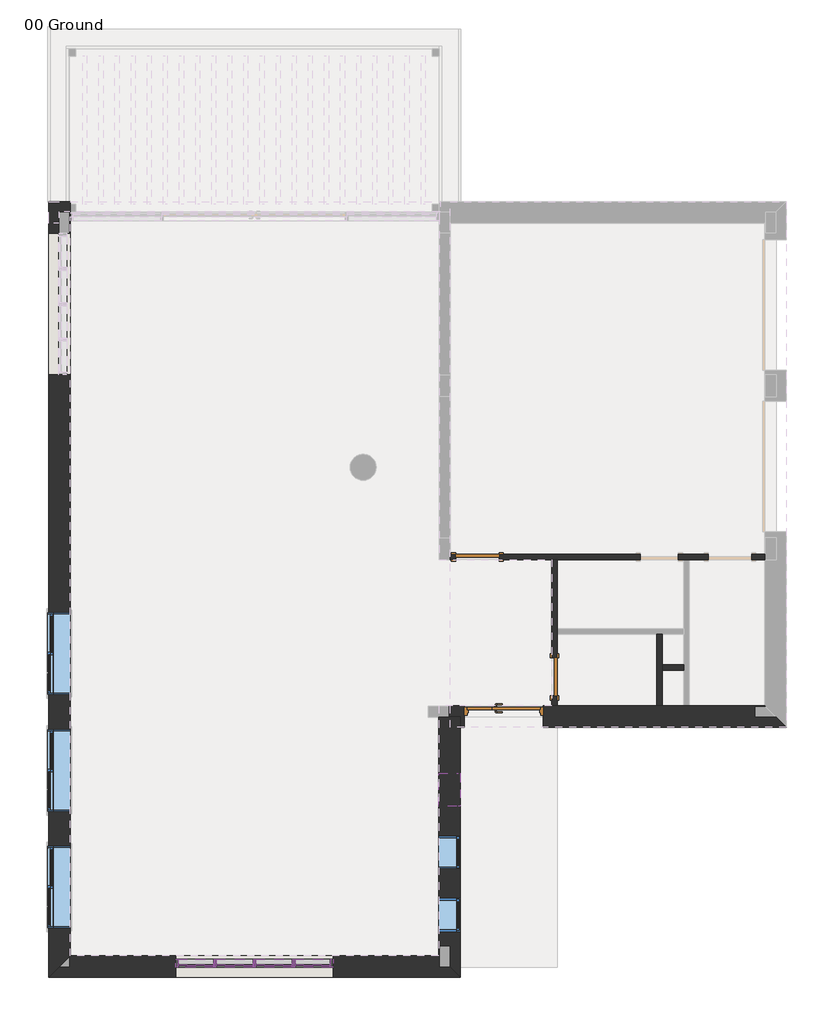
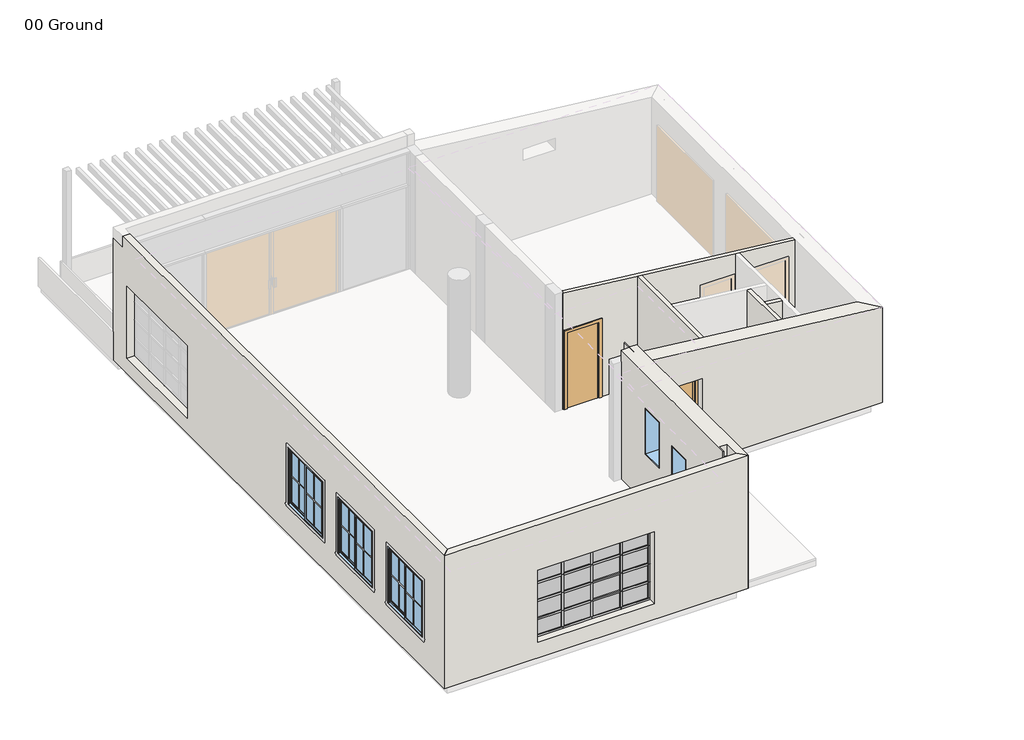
# One storey, part 1 of 3: 40 members, 16 plates, 8 walls, 6 windows, 3 doors.
"""IFC4 building model written with IfcOpenShell, lengths in millimetres."""

from ifc_helpers import new_model, si_unit, frame, origin, place, context, project, spatial, polyline, outline, extrude, faceted_brep, transform, mapped, element, save
from components import m_door_passage_uneven_flush_1350_x_2100mm_8cd78c95, m_single_flush_0700_x_2100mm_23326b45, m_single_flush_0800_x_2100mm_e1c1bfab, rectangular_mullion_50_x_150mm_fef40266, rectangular_mullion_50_x_150mm_4130c5bf, rectangular_mullion_50_x_150mm_a9044063, rectangular_mullion_50_x_150mm_1348d4e1, rectangular_mullion_50_x_150mm_89c22e8d, rectangular_mullion_50_x_150mm_42d59fea, rectangular_mullion_50_x_150mm_129a33a7, rectangular_mullion_50_x_150mm_05a43cda, system_panel_glazed_d9146cf5, system_panel_glazed_aea024ea, system_panel_glazed_24712de8, system_panel_glazed_68d5ac44, m_fixed_0610_x_1220mm_41f4d490, m_window_sliding_double_1500_x_1500mm_8cf3a065

model = new_model("IFC4")

# Units and contexts
model_context = context("Model", 3, world=origin())
ifc_project = project(units=[si_unit("LENGTHUNIT", "METRE", prefix="MILLI")], contexts=[model_context])

# Site, building, storey
site = spatial("IfcSite", under=ifc_project)
building = spatial("IfcBuilding", under=site)
storey = spatial("IfcBuildingStorey", under=building, Name="00 Ground", Elevation=0.0)

# Doors
placement = place(None, origin())
m_door_passage_uneven_flush_1350_x_2100mm_shape = m_door_passage_uneven_flush_1350_x_2100mm_8cd78c95(model_context)
element("IfcDoor", 1, ObjectType="M_Door-Passage-Uneven-Flush : 1350 x 2100mm", at=placement, inside=storey, context=model_context, shape_type="MappedRepresentation", body=[
    mapped(m_door_passage_uneven_flush_1350_x_2100mm_shape, transform((-132.5407999, -2955.0601648, 0.0), x_axis=(-1.0, 0.0, 0.0), y_axis=(0.0, -1.0, 0.0), z_axis=(0.0, 0.0, 1.0))),
])
m_single_flush_0700_x_2100mm_shape = m_single_flush_0700_x_2100mm_23326b45(model_context)
element("IfcDoor", 2, ObjectType="M_Single-Flush : 0700 x 2100mm", at=placement, inside=storey, context=model_context, shape_type="MappedRepresentation", body=[
    mapped(m_single_flush_0700_x_2100mm_shape, transform((796.9592001, -2219.7101648, 0.0), x_axis=(0.0, -1.0, 0.0), y_axis=(1.0, 0.0, 0.0), z_axis=(0.0, 0.0, 1.0))),
])
m_single_flush_0800_x_2100mm_shape = m_single_flush_0800_x_2100mm_e1c1bfab(model_context)
element("IfcDoor", 3, ObjectType="M_Single-Flush : 0800 x 2100mm", at=placement, inside=storey, context=model_context, shape_type="MappedRepresentation", body=[
    mapped(m_single_flush_0800_x_2100mm_shape, transform((-622.5407999, -12.7101648, 0.0), x_axis=(-1.0, 0.0, 0.0), y_axis=(0.0, -1.0, 0.0), z_axis=(0.0, 0.0, 1.0))),
])

# Members
rectangular_mullion_50_x_150mm_shape = rectangular_mullion_50_x_150mm_fef40266(model_context)
element("IfcMember", 4, ObjectType="Rectangular Mullion : 50 x 150mm", at=placement, inside=storey, context=model_context, shape_type="MappedRepresentation", body=[
    mapped(rectangular_mullion_50_x_150mm_shape, transform((-3272.5407999, -7487.7101648, 2300.0), x_axis=(0.0, 0.0, 1.0), y_axis=(0.0, -1.0, 0.0), z_axis=(1.0, 0.0, 0.0))),
])
element("IfcMember", 5, ObjectType="Rectangular Mullion : 50 x 150mm", at=placement, inside=storey, context=model_context, shape_type="MappedRepresentation", body=[
    mapped(rectangular_mullion_50_x_150mm_shape, transform((-5447.5407998, -7487.7101648, 2300.0), x_axis=(0.0, 0.0, 1.0), y_axis=(0.0, -1.0, 0.0), z_axis=(1.0, 0.0, 0.0))),
])
rectangular_mullion_50_x_150mm_2_shape = rectangular_mullion_50_x_150mm_4130c5bf(model_context)
element("IfcMember", 6, ObjectType="Rectangular Mullion : 50 x 150mm", at=placement, inside=storey, context=model_context, shape_type="MappedRepresentation", body=[
    mapped(rectangular_mullion_50_x_150mm_2_shape, transform((-4722.5407999, -7487.7101648, 2300.0), x_axis=(0.0, 0.0, 1.0), y_axis=(0.0, -1.0, 0.0), z_axis=(1.0, 0.0, 0.0))),
])
element("IfcMember", 7, ObjectType="Rectangular Mullion : 50 x 150mm", at=placement, inside=storey, context=model_context, shape_type="MappedRepresentation", body=[
    mapped(rectangular_mullion_50_x_150mm_2_shape, transform((-3997.5408001, -7487.7101648, 2300.0), x_axis=(0.0, 0.0, 1.0), y_axis=(0.0, -1.0, 0.0), z_axis=(1.0, 0.0, 0.0))),
])
element("IfcMember", 8, ObjectType="Rectangular Mullion : 50 x 150mm", at=placement, inside=storey, context=model_context, shape_type="MappedRepresentation", body=[
    mapped(rectangular_mullion_50_x_150mm_shape, transform((-6172.5407999, -7487.7101648, 400.0), x_axis=(0.0, 0.0, -1.0), y_axis=(0.0, -1.0, 0.0), z_axis=(-1.0, 0.0, 0.0))),
])
element("IfcMember", 9, ObjectType="Rectangular Mullion : 50 x 150mm", at=placement, inside=storey, context=model_context, shape_type="MappedRepresentation", body=[
    mapped(rectangular_mullion_50_x_150mm_2_shape, transform((-5447.5407998, -7487.7101648, 400.0), x_axis=(0.0, 0.0, -1.0), y_axis=(0.0, -1.0, 0.0), z_axis=(-1.0, 0.0, 0.0))),
])
element("IfcMember", 10, ObjectType="Rectangular Mullion : 50 x 150mm", at=placement, inside=storey, context=model_context, shape_type="MappedRepresentation", body=[
    mapped(rectangular_mullion_50_x_150mm_2_shape, transform((-4722.5407999, -7487.7101648, 400.0), x_axis=(0.0, 0.0, -1.0), y_axis=(0.0, -1.0, 0.0), z_axis=(-1.0, 0.0, 0.0))),
])
element("IfcMember", 11, ObjectType="Rectangular Mullion : 50 x 150mm", at=placement, inside=storey, context=model_context, shape_type="MappedRepresentation", body=[
    mapped(rectangular_mullion_50_x_150mm_shape, transform((-3997.5408001, -7487.7101648, 400.0), x_axis=(0.0, 0.0, -1.0), y_axis=(0.0, -1.0, 0.0), z_axis=(-1.0, 0.0, 0.0))),
])
rectangular_mullion_50_x_150mm_3_shape = rectangular_mullion_50_x_150mm_a9044063(model_context)
element("IfcMember", 12, ObjectType="Rectangular Mullion : 50 x 150mm", at=placement, inside=storey, context=model_context, shape_type="MappedRepresentation", body=[
    mapped(rectangular_mullion_50_x_150mm_3_shape, transform((-3322.5407999, -7487.7101648, 875.0), x_axis=(0.0, 0.0, 1.0), y_axis=(0.0, -1.0, 0.0), z_axis=(1.0, 0.0, 0.0))),
])
element("IfcMember", 13, ObjectType="Rectangular Mullion : 50 x 150mm", at=placement, inside=storey, context=model_context, shape_type="MappedRepresentation", body=[
    mapped(rectangular_mullion_50_x_150mm_3_shape, transform((-3322.5407999, -7487.7101648, 1350.0), x_axis=(0.0, 0.0, 1.0), y_axis=(0.0, -1.0, 0.0), z_axis=(1.0, 0.0, 0.0))),
])
element("IfcMember", 14, ObjectType="Rectangular Mullion : 50 x 150mm", at=placement, inside=storey, context=model_context, shape_type="MappedRepresentation", body=[
    mapped(rectangular_mullion_50_x_150mm_3_shape, transform((-3322.5407999, -7487.7101648, 1825.0), x_axis=(0.0, 0.0, 1.0), y_axis=(0.0, -1.0, 0.0), z_axis=(1.0, 0.0, 0.0))),
])
element("IfcMember", 15, ObjectType="Rectangular Mullion : 50 x 150mm", at=placement, inside=storey, context=model_context, shape_type="MappedRepresentation", body=[
    mapped(rectangular_mullion_50_x_150mm_3_shape, transform((-5472.5407998, -7487.7101648, 875.0), x_axis=(0.0, 0.0, 1.0), y_axis=(0.0, -1.0, 0.0), z_axis=(1.0, 0.0, 0.0))),
])
element("IfcMember", 16, ObjectType="Rectangular Mullion : 50 x 150mm", at=placement, inside=storey, context=model_context, shape_type="MappedRepresentation", body=[
    mapped(rectangular_mullion_50_x_150mm_3_shape, transform((-5472.5407998, -7487.7101648, 1350.0), x_axis=(0.0, 0.0, 1.0), y_axis=(0.0, -1.0, 0.0), z_axis=(1.0, 0.0, 0.0))),
])
element("IfcMember", 17, ObjectType="Rectangular Mullion : 50 x 150mm", at=placement, inside=storey, context=model_context, shape_type="MappedRepresentation", body=[
    mapped(rectangular_mullion_50_x_150mm_3_shape, transform((-5472.5407998, -7487.7101648, 1825.0), x_axis=(0.0, 0.0, 1.0), y_axis=(0.0, -1.0, 0.0), z_axis=(1.0, 0.0, 0.0))),
])
rectangular_mullion_50_x_150mm_4_shape = rectangular_mullion_50_x_150mm_1348d4e1(model_context)
element("IfcMember", 18, ObjectType="Rectangular Mullion : 50 x 150mm", at=placement, inside=storey, context=model_context, shape_type="MappedRepresentation", body=[
    mapped(rectangular_mullion_50_x_150mm_4_shape, transform((-4747.5407999, -7487.7101648, 875.0), x_axis=(0.0, 0.0, 1.0), y_axis=(0.0, -1.0, 0.0), z_axis=(1.0, 0.0, 0.0))),
])
element("IfcMember", 19, ObjectType="Rectangular Mullion : 50 x 150mm", at=placement, inside=storey, context=model_context, shape_type="MappedRepresentation", body=[
    mapped(rectangular_mullion_50_x_150mm_4_shape, transform((-4022.5408001, -7487.7101648, 875.0), x_axis=(0.0, 0.0, 1.0), y_axis=(0.0, -1.0, 0.0), z_axis=(1.0, 0.0, 0.0))),
])
element("IfcMember", 20, ObjectType="Rectangular Mullion : 50 x 150mm", at=placement, inside=storey, context=model_context, shape_type="MappedRepresentation", body=[
    mapped(rectangular_mullion_50_x_150mm_4_shape, transform((-4747.5407999, -7487.7101648, 1350.0), x_axis=(0.0, 0.0, 1.0), y_axis=(0.0, -1.0, 0.0), z_axis=(1.0, 0.0, 0.0))),
])
element("IfcMember", 21, ObjectType="Rectangular Mullion : 50 x 150mm", at=placement, inside=storey, context=model_context, shape_type="MappedRepresentation", body=[
    mapped(rectangular_mullion_50_x_150mm_4_shape, transform((-4022.5408001, -7487.7101648, 1350.0), x_axis=(0.0, 0.0, 1.0), y_axis=(0.0, -1.0, 0.0), z_axis=(1.0, 0.0, 0.0))),
])
element("IfcMember", 22, ObjectType="Rectangular Mullion : 50 x 150mm", at=placement, inside=storey, context=model_context, shape_type="MappedRepresentation", body=[
    mapped(rectangular_mullion_50_x_150mm_4_shape, transform((-4747.5407999, -7487.7101648, 1825.0), x_axis=(0.0, 0.0, 1.0), y_axis=(0.0, -1.0, 0.0), z_axis=(1.0, 0.0, 0.0))),
])
element("IfcMember", 23, ObjectType="Rectangular Mullion : 50 x 150mm", at=placement, inside=storey, context=model_context, shape_type="MappedRepresentation", body=[
    mapped(rectangular_mullion_50_x_150mm_4_shape, transform((-4022.5408001, -7487.7101648, 1825.0), x_axis=(0.0, 0.0, 1.0), y_axis=(0.0, -1.0, 0.0), z_axis=(1.0, 0.0, 0.0))),
])
rectangular_mullion_50_x_150mm_5_shape = rectangular_mullion_50_x_150mm_89c22e8d(model_context)
element("IfcMember", 24, ObjectType="Rectangular Mullion : 50 x 150mm", at=placement, inside=storey, context=model_context, shape_type="MappedRepresentation", body=[
    mapped(rectangular_mullion_50_x_150mm_5_shape, transform((-3272.5407999, -7487.7101648, 450.0), x_axis=(1.0, 0.0, 0.0), y_axis=(0.0, -1.0, 0.0), z_axis=(0.0, 0.0, -1.0))),
])
rectangular_mullion_50_x_150mm_6_shape = rectangular_mullion_50_x_150mm_42d59fea(model_context)
element("IfcMember", 25, ObjectType="Rectangular Mullion : 50 x 150mm", at=placement, inside=storey, context=model_context, shape_type="MappedRepresentation", body=[
    mapped(rectangular_mullion_50_x_150mm_6_shape, transform((-3272.5407999, -7487.7101648, 875.0), x_axis=(1.0, 0.0, 0.0), y_axis=(0.0, -1.0, 0.0), z_axis=(0.0, 0.0, -1.0))),
])
element("IfcMember", 26, ObjectType="Rectangular Mullion : 50 x 150mm", at=placement, inside=storey, context=model_context, shape_type="MappedRepresentation", body=[
    mapped(rectangular_mullion_50_x_150mm_6_shape, transform((-3272.5407999, -7487.7101648, 1350.0), x_axis=(1.0, 0.0, 0.0), y_axis=(0.0, -1.0, 0.0), z_axis=(0.0, 0.0, -1.0))),
])
element("IfcMember", 27, ObjectType="Rectangular Mullion : 50 x 150mm", at=placement, inside=storey, context=model_context, shape_type="MappedRepresentation", body=[
    mapped(rectangular_mullion_50_x_150mm_5_shape, transform((-3272.5407999, -7487.7101648, 1825.0), x_axis=(1.0, 0.0, 0.0), y_axis=(0.0, -1.0, 0.0), z_axis=(0.0, 0.0, -1.0))),
])
element("IfcMember", 28, ObjectType="Rectangular Mullion : 50 x 150mm", at=placement, inside=storey, context=model_context, shape_type="MappedRepresentation", body=[
    mapped(rectangular_mullion_50_x_150mm_5_shape, transform((-6172.5407999, -7487.7101648, 2250.0), x_axis=(-1.0, 0.0, 0.0), y_axis=(0.0, -1.0, 0.0), z_axis=(0.0, 0.0, 1.0))),
])
element("IfcMember", 29, ObjectType="Rectangular Mullion : 50 x 150mm", at=placement, inside=storey, context=model_context, shape_type="MappedRepresentation", body=[
    mapped(rectangular_mullion_50_x_150mm_5_shape, transform((-6172.5407999, -7487.7101648, 875.0), x_axis=(-1.0, 0.0, 0.0), y_axis=(0.0, -1.0, 0.0), z_axis=(0.0, 0.0, 1.0))),
])
element("IfcMember", 30, ObjectType="Rectangular Mullion : 50 x 150mm", at=placement, inside=storey, context=model_context, shape_type="MappedRepresentation", body=[
    mapped(rectangular_mullion_50_x_150mm_6_shape, transform((-6172.5407999, -7487.7101648, 1350.0), x_axis=(-1.0, 0.0, 0.0), y_axis=(0.0, -1.0, 0.0), z_axis=(0.0, 0.0, 1.0))),
])
element("IfcMember", 31, ObjectType="Rectangular Mullion : 50 x 150mm", at=placement, inside=storey, context=model_context, shape_type="MappedRepresentation", body=[
    mapped(rectangular_mullion_50_x_150mm_6_shape, transform((-6172.5407999, -7487.7101648, 1825.0), x_axis=(-1.0, 0.0, 0.0), y_axis=(0.0, -1.0, 0.0), z_axis=(0.0, 0.0, 1.0))),
])
rectangular_mullion_50_x_150mm_7_shape = rectangular_mullion_50_x_150mm_129a33a7(model_context)
element("IfcMember", 32, ObjectType="Rectangular Mullion : 50 x 150mm", at=placement, inside=storey, context=model_context, shape_type="MappedRepresentation", body=[
    mapped(rectangular_mullion_50_x_150mm_7_shape, transform((-5447.5407998, -7487.7101648, 450.0), x_axis=(1.0, 0.0, 0.0), y_axis=(0.0, -1.0, 0.0), z_axis=(0.0, 0.0, -1.0))),
])
element("IfcMember", 33, ObjectType="Rectangular Mullion : 50 x 150mm", at=placement, inside=storey, context=model_context, shape_type="MappedRepresentation", body=[
    mapped(rectangular_mullion_50_x_150mm_7_shape, transform((-4722.5407999, -7487.7101648, 450.0), x_axis=(1.0, 0.0, 0.0), y_axis=(0.0, -1.0, 0.0), z_axis=(0.0, 0.0, -1.0))),
])
element("IfcMember", 34, ObjectType="Rectangular Mullion : 50 x 150mm", at=placement, inside=storey, context=model_context, shape_type="MappedRepresentation", body=[
    mapped(rectangular_mullion_50_x_150mm_7_shape, transform((-3997.5408001, -7487.7101648, 450.0), x_axis=(1.0, 0.0, 0.0), y_axis=(0.0, -1.0, 0.0), z_axis=(0.0, 0.0, -1.0))),
])
rectangular_mullion_50_x_150mm_8_shape = rectangular_mullion_50_x_150mm_05a43cda(model_context)
element("IfcMember", 35, ObjectType="Rectangular Mullion : 50 x 150mm", at=placement, inside=storey, context=model_context, shape_type="MappedRepresentation", body=[
    mapped(rectangular_mullion_50_x_150mm_8_shape, transform((-5447.5407998, -7487.7101648, 875.0), x_axis=(1.0, 0.0, 0.0), y_axis=(0.0, -1.0, 0.0), z_axis=(0.0, 0.0, -1.0))),
])
element("IfcMember", 36, ObjectType="Rectangular Mullion : 50 x 150mm", at=placement, inside=storey, context=model_context, shape_type="MappedRepresentation", body=[
    mapped(rectangular_mullion_50_x_150mm_8_shape, transform((-4722.5407999, -7487.7101648, 875.0), x_axis=(1.0, 0.0, 0.0), y_axis=(0.0, -1.0, 0.0), z_axis=(0.0, 0.0, -1.0))),
])
element("IfcMember", 37, ObjectType="Rectangular Mullion : 50 x 150mm", at=placement, inside=storey, context=model_context, shape_type="MappedRepresentation", body=[
    mapped(rectangular_mullion_50_x_150mm_8_shape, transform((-3997.5408001, -7487.7101648, 875.0), x_axis=(1.0, 0.0, 0.0), y_axis=(0.0, -1.0, 0.0), z_axis=(0.0, 0.0, -1.0))),
])
element("IfcMember", 38, ObjectType="Rectangular Mullion : 50 x 150mm", at=placement, inside=storey, context=model_context, shape_type="MappedRepresentation", body=[
    mapped(rectangular_mullion_50_x_150mm_8_shape, transform((-5447.5407998, -7487.7101648, 1350.0), x_axis=(1.0, 0.0, 0.0), y_axis=(0.0, -1.0, 0.0), z_axis=(0.0, 0.0, -1.0))),
])
element("IfcMember", 39, ObjectType="Rectangular Mullion : 50 x 150mm", at=placement, inside=storey, context=model_context, shape_type="MappedRepresentation", body=[
    mapped(rectangular_mullion_50_x_150mm_8_shape, transform((-4722.5407999, -7487.7101648, 1350.0), x_axis=(1.0, 0.0, 0.0), y_axis=(0.0, -1.0, 0.0), z_axis=(0.0, 0.0, -1.0))),
])
element("IfcMember", 40, ObjectType="Rectangular Mullion : 50 x 150mm", at=placement, inside=storey, context=model_context, shape_type="MappedRepresentation", body=[
    mapped(rectangular_mullion_50_x_150mm_8_shape, transform((-3997.5408001, -7487.7101648, 1350.0), x_axis=(1.0, 0.0, 0.0), y_axis=(0.0, -1.0, 0.0), z_axis=(0.0, 0.0, -1.0))),
])
element("IfcMember", 41, ObjectType="Rectangular Mullion : 50 x 150mm", at=placement, inside=storey, context=model_context, shape_type="MappedRepresentation", body=[
    mapped(rectangular_mullion_50_x_150mm_7_shape, transform((-5447.5407998, -7487.7101648, 1825.0), x_axis=(1.0, 0.0, 0.0), y_axis=(0.0, -1.0, 0.0), z_axis=(0.0, 0.0, -1.0))),
])
element("IfcMember", 42, ObjectType="Rectangular Mullion : 50 x 150mm", at=placement, inside=storey, context=model_context, shape_type="MappedRepresentation", body=[
    mapped(rectangular_mullion_50_x_150mm_7_shape, transform((-4722.5407999, -7487.7101648, 1825.0), x_axis=(1.0, 0.0, 0.0), y_axis=(0.0, -1.0, 0.0), z_axis=(0.0, 0.0, -1.0))),
])
element("IfcMember", 43, ObjectType="Rectangular Mullion : 50 x 150mm", at=placement, inside=storey, context=model_context, shape_type="MappedRepresentation", body=[
    mapped(rectangular_mullion_50_x_150mm_7_shape, transform((-3997.5408001, -7487.7101648, 1825.0), x_axis=(1.0, 0.0, 0.0), y_axis=(0.0, -1.0, 0.0), z_axis=(0.0, 0.0, -1.0))),
])

# Plates
system_panel_glazed_shape = system_panel_glazed_d9146cf5(model_context)
element("IfcPlate", 44, ObjectType="System Panel : Glazed", at=placement, inside=storey, context=model_context, shape_type="MappedRepresentation", body=[
    mapped(system_panel_glazed_shape, transform((-5797.5407999, -7487.7101648, 900.0), x_axis=(1.0, 0.0, 0.0), y_axis=(0.0, 1.0, 0.0), z_axis=(0.0, 0.0, 1.0))),
])
element("IfcPlate", 45, ObjectType="System Panel : Glazed", at=placement, inside=storey, context=model_context, shape_type="MappedRepresentation", body=[
    mapped(system_panel_glazed_shape, transform((-3647.5408, -7487.7101648, 900.0), x_axis=(1.0, 0.0, 0.0), y_axis=(0.0, 1.0, 0.0), z_axis=(0.0, 0.0, 1.0))),
])
element("IfcPlate", 46, ObjectType="System Panel : Glazed", at=placement, inside=storey, context=model_context, shape_type="MappedRepresentation", body=[
    mapped(system_panel_glazed_shape, transform((-5797.5407999, -7487.7101648, 1375.0), x_axis=(1.0, 0.0, 0.0), y_axis=(0.0, 1.0, 0.0), z_axis=(0.0, 0.0, 1.0))),
])
element("IfcPlate", 47, ObjectType="System Panel : Glazed", at=placement, inside=storey, context=model_context, shape_type="MappedRepresentation", body=[
    mapped(system_panel_glazed_shape, transform((-3647.5408, -7487.7101648, 1375.0), x_axis=(1.0, 0.0, 0.0), y_axis=(0.0, 1.0, 0.0), z_axis=(0.0, 0.0, 1.0))),
])
system_panel_glazed_2_shape = system_panel_glazed_aea024ea(model_context)
element("IfcPlate", 48, ObjectType="System Panel : Glazed", at=placement, inside=storey, context=model_context, shape_type="MappedRepresentation", body=[
    mapped(system_panel_glazed_2_shape, transform((-5085.0407999, -7487.7101648, 900.0), x_axis=(1.0, 0.0, 0.0), y_axis=(0.0, 1.0, 0.0), z_axis=(0.0, 0.0, 1.0))),
])
element("IfcPlate", 49, ObjectType="System Panel : Glazed", at=placement, inside=storey, context=model_context, shape_type="MappedRepresentation", body=[
    mapped(system_panel_glazed_2_shape, transform((-4360.0408, -7487.7101648, 900.0), x_axis=(1.0, 0.0, 0.0), y_axis=(0.0, 1.0, 0.0), z_axis=(0.0, 0.0, 1.0))),
])
element("IfcPlate", 50, ObjectType="System Panel : Glazed", at=placement, inside=storey, context=model_context, shape_type="MappedRepresentation", body=[
    mapped(system_panel_glazed_2_shape, transform((-5085.0407999, -7487.7101648, 1375.0), x_axis=(1.0, 0.0, 0.0), y_axis=(0.0, 1.0, 0.0), z_axis=(0.0, 0.0, 1.0))),
])
element("IfcPlate", 51, ObjectType="System Panel : Glazed", at=placement, inside=storey, context=model_context, shape_type="MappedRepresentation", body=[
    mapped(system_panel_glazed_2_shape, transform((-4360.0408, -7487.7101648, 1375.0), x_axis=(1.0, 0.0, 0.0), y_axis=(0.0, 1.0, 0.0), z_axis=(0.0, 0.0, 1.0))),
])
system_panel_glazed_3_shape = system_panel_glazed_24712de8(model_context)
element("IfcPlate", 52, ObjectType="System Panel : Glazed", at=placement, inside=storey, context=model_context, shape_type="MappedRepresentation", body=[
    mapped(system_panel_glazed_3_shape, transform((-5797.5407999, -7487.7101648, 450.0), x_axis=(1.0, 0.0, 0.0), y_axis=(0.0, 1.0, 0.0), z_axis=(0.0, 0.0, 1.0))),
])
element("IfcPlate", 53, ObjectType="System Panel : Glazed", at=placement, inside=storey, context=model_context, shape_type="MappedRepresentation", body=[
    mapped(system_panel_glazed_3_shape, transform((-3647.5408, -7487.7101648, 450.0), x_axis=(1.0, 0.0, 0.0), y_axis=(0.0, 1.0, 0.0), z_axis=(0.0, 0.0, 1.0))),
])
element("IfcPlate", 54, ObjectType="System Panel : Glazed", at=placement, inside=storey, context=model_context, shape_type="MappedRepresentation", body=[
    mapped(system_panel_glazed_3_shape, transform((-5797.5407999, -7487.7101648, 1850.0), x_axis=(1.0, 0.0, 0.0), y_axis=(0.0, 1.0, 0.0), z_axis=(0.0, 0.0, 1.0))),
])
element("IfcPlate", 55, ObjectType="System Panel : Glazed", at=placement, inside=storey, context=model_context, shape_type="MappedRepresentation", body=[
    mapped(system_panel_glazed_3_shape, transform((-3647.5408, -7487.7101648, 1850.0), x_axis=(1.0, 0.0, 0.0), y_axis=(0.0, 1.0, 0.0), z_axis=(0.0, 0.0, 1.0))),
])
system_panel_glazed_4_shape = system_panel_glazed_68d5ac44(model_context)
element("IfcPlate", 56, ObjectType="System Panel : Glazed", at=placement, inside=storey, context=model_context, shape_type="MappedRepresentation", body=[
    mapped(system_panel_glazed_4_shape, transform((-5085.0407999, -7487.7101648, 450.0), x_axis=(1.0, 0.0, 0.0), y_axis=(0.0, 1.0, 0.0), z_axis=(0.0, 0.0, 1.0))),
])
element("IfcPlate", 57, ObjectType="System Panel : Glazed", at=placement, inside=storey, context=model_context, shape_type="MappedRepresentation", body=[
    mapped(system_panel_glazed_4_shape, transform((-4360.0408, -7487.7101648, 450.0), x_axis=(1.0, 0.0, 0.0), y_axis=(0.0, 1.0, 0.0), z_axis=(0.0, 0.0, 1.0))),
])
element("IfcPlate", 58, ObjectType="System Panel : Glazed", at=placement, inside=storey, context=model_context, shape_type="MappedRepresentation", body=[
    mapped(system_panel_glazed_4_shape, transform((-5085.0407999, -7487.7101648, 1850.0), x_axis=(1.0, 0.0, 0.0), y_axis=(0.0, 1.0, 0.0), z_axis=(0.0, 0.0, 1.0))),
])
element("IfcPlate", 59, ObjectType="System Panel : Glazed", at=placement, inside=storey, context=model_context, shape_type="MappedRepresentation", body=[
    mapped(system_panel_glazed_4_shape, transform((-4360.0408, -7487.7101648, 1850.0), x_axis=(1.0, 0.0, 0.0), y_axis=(0.0, 1.0, 0.0), z_axis=(0.0, 0.0, 1.0))),
])

# Walls
element("IfcWall", 60, ObjectType="Exterior - Brick on CMU", at=placement, inside=storey, context=model_context, shape_type="Brep", body=[
    faceted_brep([(-937.5407999, -7747.7101648, 0.0), (-937.5407999, -2948.7101648, 0.0), (-937.5407999, -2948.7101648, 3500.0), (-937.5407999, -7747.7101648, 3500.0), (-937.5407999, -3992.7101648, 2600.0), (-937.5407999, -3992.7101648, 1380.0), (-937.5407999, -4602.7101648, 1380.0), (-937.5407999, -4602.7101648, 2600.0), (-937.5407999, -5142.7101648, 2300.0), (-937.5407999, -5142.7101648, 1080.0), (-937.5407999, -5752.7101648, 1080.0), (-937.5407999, -5752.7101648, 2300.0), (-937.5407999, -6292.7101648, 2000.0), (-937.5407999, -6292.7101648, 780.0), (-937.5407999, -6902.7101648, 780.0), (-937.5407999, -6902.7101648, 2000.0), (-1335.5407999, -7349.7101648, 0.0), (-1335.5407999, -7349.7101648, 3500.0), (-1335.5407999, -2962.7101648, 3500.0), (-1335.5407999, -2962.7101648, 0.0), (-1335.5407999, -3992.7101648, 1380.0), (-1335.5407999, -3992.7101648, 2600.0), (-1335.5407999, -4602.7101648, 2600.0), (-1335.5407999, -4602.7101648, 1380.0), (-1335.5407999, -5142.7101648, 1080.0), (-1335.5407999, -5142.7101648, 2300.0), (-1335.5407999, -5752.7101648, 2300.0), (-1335.5407999, -5752.7101648, 1080.0), (-1335.5407999, -6292.7101648, 780.0), (-1335.5407999, -6292.7101648, 2000.0), (-1335.5407999, -6902.7101648, 2000.0), (-1335.5407999, -6902.7101648, 780.0), (-1122.5407999, -7562.7101648, 0.0), (-1122.5407999, -7162.7101648, 0.0), (-1322.5407999, -7162.7101648, 0.0), (-1322.5407999, -7362.7101648, 0.0), (-1122.5407999, -2962.7101648, 0.0), (-1122.5407999, -2948.7101648, 0.0), (-1122.5407999, -2948.7101648, 3500.0), (-1122.5407999, -2962.7101648, 3500.0), (-1322.5407999, -7362.7101648, 3500.0), (-1322.5407999, -7162.7101648, 3500.0), (-1122.5407999, -7162.7101648, 3500.0), (-1122.5407999, -7562.7101648, 3500.0), (-1322.5407999, -7362.7101648, 3200.0), (-1122.5407999, -2962.7101648, 3200.0), (-1122.5407999, -7162.7101648, 3200.0), (-1322.5407999, -7162.7101648, 3200.0)], [[[0, 1, 2, 3], [4, 5, 6, 7], [8, 9, 10, 11], [12, 13, 14, 15]], [[16, 17, 18, 19], [20, 21, 22, 23], [24, 25, 26, 27], [28, 29, 30, 31]], [[1, 0, 32, 33, 34, 35, 16, 19, 36, 37]], [[2, 1, 37, 38]], [[3, 2, 38, 39, 18, 17, 40, 41, 42, 43]], [[0, 3, 43, 32]], [[17, 16, 35, 44, 40]], [[20, 5, 4, 21]], [[6, 23, 22, 7]], [[5, 20, 23, 6]], [[7, 22, 21, 4]], [[24, 9, 8, 25]], [[25, 8, 11, 26]], [[26, 11, 10, 27]], [[9, 24, 27, 10]], [[28, 13, 12, 29]], [[29, 12, 15, 30]], [[30, 15, 14, 31]], [[13, 28, 31, 14]], [[36, 45, 39, 38, 37]], [[39, 45, 36, 19, 18]], [[42, 46, 33, 32, 43]], [[34, 47, 41, 40, 44, 35]], [[33, 46, 42, 41, 47, 34]]]),
])
element("IfcWall", 61, ObjectType="Exterior - Brick on CMU", at=placement, inside=storey, context=model_context, shape_type="Brep", body=[
    faceted_brep([(-1136.5407999, -3147.7101648, 3500.0), (-1136.5407999, -3147.7101648, 0.0), (-857.5407999, -3147.7101648, 0.0), (-857.5407999, -3147.7101648, 2200.0), (592.4592001, -3147.7101648, 2200.0), (592.4592001, -3147.7101648, 0.0), (5062.4592001, -3147.7101648, 0.0), (5062.4592001, -3147.7101648, 2500.0), (-1122.5407999, -3147.7101648, 3160.0), (-1122.5407999, -3147.7101648, 3500.0), (-1136.5407999, -2749.7101648, 0.0), (-1136.5407999, -2749.7101648, 3500.0), (-1122.5407999, -2749.7101648, 3500.0), (-1122.5407999, -2749.7101648, 3160.0), (746.9592001, -2749.7101648, 2960.5060631), (846.9592001, -2749.7101648, 2949.8350849), (2677.4592001, -2749.7101648, 2754.5028294), (2777.4592001, -2749.7101648, 2743.8318513), (3177.4592001, -2749.7101648, 2701.1479386), (3277.4592001, -2749.7101648, 2690.4769604), (4664.4592001, -2749.7101648, 2542.4704931), (4664.4592001, -2749.7101648, 0.0), (3277.4592001, -2749.7101648, 0.0), (3177.4592001, -2749.7101648, 0.0), (2777.4592001, -2749.7101648, 0.0), (2677.4592001, -2749.7101648, 0.0), (846.9592001, -2749.7101648, 0.0), (746.9592001, -2749.7101648, 0.0), (592.4592001, -2749.7101648, 0.0), (592.4592001, -2749.7101648, 2200.0), (-857.5407999, -2749.7101648, 2200.0), (-857.5407999, -2749.7101648, 0.0), (4677.4592001, -2762.7101648, 0.0), (4477.4592001, -2762.7101648, 0.0), (4477.4592001, -2962.7101648, 0.0), (4877.4592001, -2962.7101648, 0.0), (4877.4592001, -2962.7101648, 2519.7413096), (4677.4592001, -2762.7101648, 2519.7413096), (4477.4592001, -2962.7101648, 2519.7413096), (4477.4592001, -2762.7101648, 2519.7413096)], [[[0, 1, 2, 3, 4, 5, 6, 7, 8, 9]], [[10, 11, 12, 13, 14, 15, 16, 17, 18, 19, 20, 21, 22, 23, 24, 25, 26, 27, 28, 29, 30, 31]], [[1, 10, 31, 2]], [[6, 5, 28, 27, 26, 25, 24, 23, 22, 21, 32, 33, 34, 35]], [[1, 0, 11, 10]], [[7, 6, 35, 36]], [[21, 20, 36, 37, 32]], [[38, 36, 35, 34]], [[33, 39, 38, 34]], [[39, 33, 32, 37]], [[36, 38, 39, 37]], [[30, 3, 2, 31]], [[3, 30, 29, 4]], [[4, 29, 28, 5]], [[11, 0, 9, 12]], [[12, 9, 8, 13]], [[8, 7, 36, 20, 19, 18, 17, 16, 15, 14, 13]]]),
])
element("IfcWall", 62, ObjectType="Exterior - Brick on CMU", at=placement, inside=storey, context=model_context, shape_type="Brep", body=[
    faceted_brep([(-1335.5407999, -7349.7101648, 0.0), (-8109.5407999, -7349.7101648, 0.0), (-8109.5407999, -7349.7101648, 3200.0), (-1335.5407999, -7349.7101648, 3200.0), (-6172.5407999, -7349.7101648, 2300.0), (-6172.5407999, -7349.7101648, 400.0), (-3272.5407999, -7349.7101648, 400.0), (-3272.5407999, -7349.7101648, 2300.0), (-8507.5407999, -7747.7101648, 0.0), (-937.5407999, -7747.7101648, 0.0), (-937.5407999, -7747.7101648, 3500.0), (-8507.5407999, -7747.7101648, 3500.0), (-6172.5407999, -7747.7101648, 400.0), (-6172.5407999, -7747.7101648, 2300.0), (-3272.5407999, -7747.7101648, 2300.0), (-3272.5407999, -7747.7101648, 400.0), (-1322.5407999, -7362.7101648, 0.0), (-1322.5407999, -7562.7101648, 0.0), (-1122.5407999, -7562.7101648, 0.0), (-8322.5407999, -7562.7101648, 0.0), (-8122.5407999, -7562.7101648, 0.0), (-8122.5407999, -7362.7101648, 0.0), (-1122.5407999, -7562.7101648, 3500.0), (-8322.5407999, -7562.7101648, 3500.0), (-1322.5407999, -7362.7101648, 3200.0), (-8122.5407999, -7362.7101648, 3200.0), (-8122.5407999, -7562.7101648, 3200.0), (-1322.5407999, -7562.7101648, 3200.0)], [[[0, 1, 2, 3], [4, 5, 6, 7]], [[8, 9, 10, 11], [12, 13, 14, 15]], [[1, 0, 16, 17, 18, 9, 8, 19, 20, 21]], [[11, 10, 22, 23]], [[10, 9, 18, 22]], [[16, 0, 3, 24]], [[8, 11, 23, 19]], [[1, 21, 25, 2]], [[4, 13, 12, 5]], [[13, 4, 7, 14]], [[14, 7, 6, 15]], [[5, 12, 15, 6]], [[21, 20, 26, 25]], [[20, 19, 23, 22, 18, 17, 27, 26]], [[17, 16, 24, 27]], [[26, 27, 24, 3, 2, 25]]]),
])
element("IfcWall", 63, ObjectType="Exterior - Brick on CMU", at=placement, inside=storey, context=model_context, shape_type="Brep", body=[
    faceted_brep([(-8109.5407999, -7349.7101648, 0.0), (-8109.5407999, 6522.2898352, 0.0), (-8109.5407999, 6522.2898352, 3200.0), (-8109.5407999, -7349.7101648, 3200.0), (-8109.5407999, 3337.2898352, 400.0), (-8109.5407999, 3337.2898352, 2300.0), (-8109.5407999, 5937.2898352, 2300.0), (-8109.5407999, 5937.2898352, 400.0), (-8109.5407999, -5337.7101648, 2300.0), (-8109.5407999, -5337.7101648, 800.0), (-8109.5407999, -6837.7101648, 800.0), (-8109.5407999, -6837.7101648, 2300.0), (-8109.5407999, -3187.7101648, 2300.0), (-8109.5407999, -3187.7101648, 800.0), (-8109.5407999, -4687.7101648, 800.0), (-8109.5407999, -4687.7101648, 2300.0), (-8109.5407999, -1037.7101648, 2300.0), (-8109.5407999, -1037.7101648, 800.0), (-8109.5407999, -2537.7101648, 800.0), (-8109.5407999, -2537.7101648, 2300.0), (-8507.5407999, 6522.2898352, 0.0), (-8507.5407999, -7747.7101648, 0.0), (-8507.5407999, -7747.7101648, 3500.0), (-8507.5407999, 6124.2898352, 3500.0), (-8507.5407999, 6124.2898352, 3200.0), (-8507.5407999, 6522.2898352, 3200.0), (-8507.5407999, 3337.2898352, 2300.0), (-8507.5407999, 3337.2898352, 400.0), (-8507.5407999, 5937.2898352, 400.0), (-8507.5407999, 5937.2898352, 2300.0), (-8507.5407999, -5337.7101648, 800.0), (-8507.5407999, -5337.7101648, 2300.0), (-8507.5407999, -6837.7101648, 2300.0), (-8507.5407999, -6837.7101648, 800.0), (-8507.5407999, -3187.7101648, 800.0), (-8507.5407999, -3187.7101648, 2300.0), (-8507.5407999, -4687.7101648, 2300.0), (-8507.5407999, -4687.7101648, 800.0), (-8507.5407999, -1037.7101648, 800.0), (-8507.5407999, -1037.7101648, 2300.0), (-8507.5407999, -2537.7101648, 2300.0), (-8507.5407999, -2537.7101648, 800.0), (-8122.5407999, -7362.7101648, 0.0), (-8322.5407999, -7562.7101648, 0.0), (-8322.5407999, 5937.2898352, 0.0), (-8122.5407999, 5937.2898352, 0.0), (-8122.5407999, 6337.2898352, 0.0), (-8322.5407999, 6337.2898352, 0.0), (-8322.5407999, -7562.7101648, 3500.0), (-8322.5407999, 6124.2898352, 3500.0), (-8122.5407999, -7362.7101648, 3200.0), (-8322.5407999, -7562.7101648, 3200.0), (-8322.5407999, 5937.2898352, 2300.0), (-8122.5407999, 5937.2898352, 2300.0), (-8122.5407999, 5937.2898352, 400.0), (-8322.5407999, 5937.2898352, 400.0), (-8322.5407999, 5937.2898352, 3200.0), (-8122.5407999, 5937.2898352, 3200.0), (-8322.5407999, 6337.2898352, 3200.0), (-8322.5407999, 6124.2898352, 3200.0), (-8122.5407999, 6337.2898352, 3200.0)], [[[0, 1, 2, 3], [4, 5, 6, 7], [8, 9, 10, 11], [12, 13, 14, 15], [16, 17, 18, 19]], [[20, 21, 22, 23, 24, 25], [26, 27, 28, 29], [30, 31, 32, 33], [34, 35, 36, 37], [38, 39, 40, 41]], [[1, 0, 42, 43, 21, 20], [44, 45, 46, 47]], [[1, 20, 25, 2]], [[48, 49, 23, 22]], [[22, 21, 43, 42, 0, 3, 50, 51, 48]], [[4, 27, 26, 5]], [[5, 26, 29, 52, 53, 6]], [[7, 6, 53, 54]], [[29, 28, 55, 52]], [[27, 4, 7, 54, 55, 28]], [[53, 52, 56, 57]], [[44, 55, 54, 45]], [[55, 44, 47, 58, 59, 49, 48, 51, 56, 52]], [[47, 46, 60, 58]], [[49, 59, 24, 23]], [[2, 25, 24, 59, 58, 60, 57, 56, 51, 50, 3]], [[9, 8, 31, 30]], [[10, 9, 30, 33]], [[11, 10, 33, 32]], [[8, 11, 32, 31]], [[13, 12, 35, 34]], [[14, 13, 34, 37]], [[15, 14, 37, 36]], [[12, 15, 36, 35]], [[17, 16, 39, 38]], [[18, 17, 38, 41]], [[19, 18, 41, 40]], [[16, 19, 40, 39]], [[45, 54, 53, 57, 60, 46]]]),
])
element("IfcWall", 64, ObjectType="Generic - 100mm", at=placement, inside=storey, context=model_context, shape_type="Brep", body=[
    faceted_brep([(2377.4592001, 37.2898352, 2100.0), (2377.4592001, 37.2898352, 0.0), (-222.5407999, 37.2898352, 0.0), (-222.5407999, 37.2898352, 2100.0), (-1022.5407999, 37.2898352, 2100.0), (-1022.5407999, 37.2898352, 0.0), (-1122.5407999, 37.2898352, 0.0), (-1122.5407999, 37.2898352, 3160.0), (4664.4592001, 37.2898352, 2542.4704931), (4664.4592001, 37.2898352, 0.0), (4424.4592001, 37.2898352, 0.0), (4424.4592001, 37.2898352, 2100.0), (3624.4592001, 37.2898352, 2100.0), (3624.4592001, 37.2898352, 0.0), (3077.4592001, 37.2898352, 0.0), (3077.4592001, 37.2898352, 2100.0), (-222.5407999, -62.7101648, 0.0), (746.9592001, -62.7101648, 0.0), (846.9592001, -62.7101648, 0.0), (2377.4592001, -62.7101648, 0.0), (2377.4592001, -62.7101648, 2100.0), (3077.4592001, -62.7101648, 2100.0), (3077.4592001, -62.7101648, 0.0), (3177.4592001, -62.7101648, 0.0), (3277.4592001, -62.7101648, 0.0), (3624.4592001, -62.7101648, 0.0), (3624.4592001, -62.7101648, 2100.0), (4424.4592001, -62.7101648, 2100.0), (4424.4592001, -62.7101648, 0.0), (4664.4592001, -62.7101648, 0.0), (4664.4592001, -62.7101648, 2542.4704931), (3277.4592001, -62.7101648, 2690.4769604), (3177.4592001, -62.7101648, 2701.1479386), (846.9592001, -62.7101648, 2949.8350849), (746.9592001, -62.7101648, 2960.5060631), (-1122.5407999, -62.7101648, 3160.0), (-1122.5407999, -62.7101648, 0.0), (-1022.5407999, -62.7101648, 0.0), (-1022.5407999, -62.7101648, 2100.0), (-222.5407999, -62.7101648, 2100.0)], [[[0, 1, 2, 3, 4, 5, 6, 7, 8, 9, 10, 11, 12, 13, 14, 15]], [[16, 17, 18, 19, 20, 21, 22, 23, 24, 25, 26, 27, 28, 29, 30, 31, 32, 33, 34, 35, 36, 37, 38, 39]], [[6, 5, 37, 36]], [[29, 28, 10, 9]], [[14, 13, 25, 24, 23, 22]], [[2, 1, 19, 18, 17, 16]], [[7, 6, 36, 35]], [[9, 8, 30, 29]], [[8, 7, 35, 34, 33, 32, 31, 30]], [[38, 37, 5, 4]], [[39, 38, 4, 3]], [[16, 39, 3, 2]], [[11, 10, 28, 27]], [[12, 11, 27, 26]], [[13, 12, 26, 25]], [[20, 19, 1, 0]], [[21, 20, 0, 15]], [[22, 21, 15, 14]]]),
])
element("IfcWall", 65, ObjectType="Generic - 100mm", at=placement, inside=storey, context=model_context, shape_type="Brep", body=[
    faceted_brep([(846.9592001, -2749.7101648, 0.0), (846.9592001, -2569.7101648, 0.0), (846.9592001, -2569.7101648, 2100.0), (846.9592001, -1869.7101648, 2100.0), (846.9592001, -1869.7101648, 0.0), (846.9592001, -1432.7101648, 0.0), (846.9592001, -1332.7101648, 0.0), (846.9592001, -62.7101648, 0.0), (846.9592001, -62.7101648, 2949.8350849), (846.9592001, -1332.7101648, 2949.8350849), (846.9592001, -1432.7101648, 2949.8350849), (846.9592001, -2749.7101648, 2949.8350849), (746.9592001, -2569.7101648, 2100.0), (746.9592001, -2569.7101648, 0.0), (746.9592001, -2749.7101648, 0.0), (746.9592001, -2749.7101648, 2960.5060631), (746.9592001, -62.7101648, 2960.5060631), (746.9592001, -62.7101648, 0.0), (746.9592001, -1869.7101648, 0.0), (746.9592001, -1869.7101648, 2100.0)], [[[0, 1, 2, 3, 4, 5, 6, 7, 8, 9, 10, 11]], [[12, 13, 14, 15, 16, 17, 18, 19]], [[18, 17, 7, 6, 5, 4]], [[14, 13, 1, 0]], [[0, 11, 15, 14]], [[8, 7, 17, 16]], [[11, 10, 9, 8, 16, 15]], [[2, 1, 13, 12]], [[3, 2, 12, 19]], [[4, 3, 19, 18]]]),
])
element("IfcWall", 66, ObjectType="Generic - 100mm", at=placement, inside=storey, context=model_context, shape_type="Brep", body=[
    faceted_brep([(2777.4592001, -2749.7101648, 0.0), (2777.4592001, -2097.7101648, 0.0), (2777.4592001, -1997.7101648, 0.0), (2777.4592001, -1432.7101648, 0.0), (2777.4592001, -1432.7101648, 2743.8318513), (2777.4592001, -1997.7101648, 2743.8318513), (2777.4592001, -2097.7101648, 2743.8318513), (2777.4592001, -2749.7101648, 2743.8318513), (2677.4592001, -2749.7101648, 0.0), (2677.4592001, -2749.7101648, 2754.5028294), (2677.4592001, -1432.7101648, 2754.5028294), (2677.4592001, -1432.7101648, 0.0)], [[[0, 1, 2, 3, 4, 5, 6, 7]], [[8, 9, 10, 11]], [[3, 2, 1, 0, 8, 11]], [[0, 7, 9, 8]], [[4, 3, 11, 10]], [[7, 6, 5, 4, 10, 9]]]),
])
element("IfcWall", 67, ObjectType="Generic - 100mm", at=placement, inside=storey, context=model_context, shape_type="SweptSolid", body=[
    extrude(outline(polyline([(0.0, 2777.4592001), (0.0, 3177.4592001), (2701.1479386, 3177.4592001), (2743.8318513, 2777.4592001), (0.0, 2777.4592001)])), frame((0.0, -2097.7101648, 0.0), z_axis=(0.0, 1.0, 0.0), x_axis=(0.0, 0.0, 1.0)), (0.0, 0.0, 1.0), 100.0),
])

# Windows
m_fixed_0610_x_1220mm_shape = m_fixed_0610_x_1220mm_41f4d490(model_context)
element("IfcWindow", 68, ObjectType="M_Fixed : 0610 x 1220mm", at=placement, inside=storey, context=model_context, shape_type="MappedRepresentation", body=[
    mapped(m_fixed_0610_x_1220mm_shape, transform((-1149.5407999, -6597.7101648, -135.0), x_axis=(0.0, -1.0, 0.0), y_axis=(1.0, 0.0, 0.0), z_axis=(0.0, 0.0, 1.0))),
])
element("IfcWindow", 69, ObjectType="M_Fixed : 0610 x 1220mm", at=placement, inside=storey, context=model_context, shape_type="MappedRepresentation", body=[
    mapped(m_fixed_0610_x_1220mm_shape, transform((-1149.5407999, -5447.7101648, 165.0), x_axis=(0.0, -1.0, 0.0), y_axis=(1.0, 0.0, 0.0), z_axis=(0.0, 0.0, 1.0))),
])
element("IfcWindow", 70, ObjectType="M_Fixed : 0610 x 1220mm", at=placement, inside=storey, context=model_context, shape_type="MappedRepresentation", body=[
    mapped(m_fixed_0610_x_1220mm_shape, transform((-1149.5407999, -4297.7101648, 465.0), x_axis=(0.0, -1.0, 0.0), y_axis=(1.0, 0.0, 0.0), z_axis=(0.0, 0.0, 1.0))),
])
m_window_sliding_double_1500_x_1500mm_shape = m_window_sliding_double_1500_x_1500mm_8cf3a065(model_context)
element("IfcWindow", 71, ObjectType="M_Window-Sliding-Double : 1500 x 1500mm", at=placement, inside=storey, context=model_context, shape_type="MappedRepresentation", body=[
    mapped(m_window_sliding_double_1500_x_1500mm_shape, transform((-8312.3507999, -6087.7101648, -100.0), x_axis=(0.0, 1.0, 0.0), y_axis=(-1.0, 0.0, 0.0), z_axis=(0.0, 0.0, 1.0))),
])
element("IfcWindow", 72, ObjectType="M_Window-Sliding-Double : 1500 x 1500mm", at=placement, inside=storey, context=model_context, shape_type="MappedRepresentation", body=[
    mapped(m_window_sliding_double_1500_x_1500mm_shape, transform((-8312.3507999, -3937.7101648, -100.0), x_axis=(0.0, 1.0, 0.0), y_axis=(-1.0, 0.0, 0.0), z_axis=(0.0, 0.0, 1.0))),
])
element("IfcWindow", 73, ObjectType="M_Window-Sliding-Double : 1500 x 1500mm", at=placement, inside=storey, context=model_context, shape_type="MappedRepresentation", body=[
    mapped(m_window_sliding_double_1500_x_1500mm_shape, transform((-8312.3507999, -1787.7101648, -100.0), x_axis=(0.0, 1.0, 0.0), y_axis=(-1.0, 0.0, 0.0), z_axis=(0.0, 0.0, 1.0))),
])

save(model, "model.ifc")
